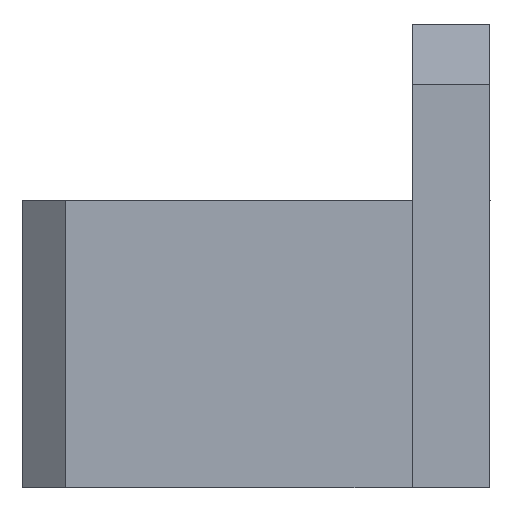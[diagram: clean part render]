
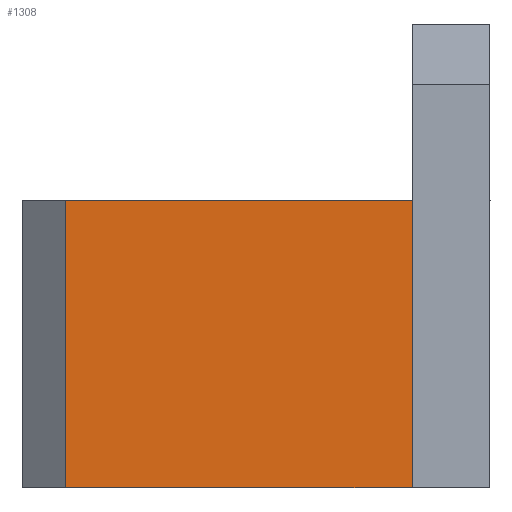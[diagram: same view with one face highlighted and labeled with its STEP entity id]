
A CAD part, left-side view. The second image highlights one B-rep face of the part: STEP entity #1308.
In plain terms, the highlighted planar face has unit normal (-1, 0, 0).
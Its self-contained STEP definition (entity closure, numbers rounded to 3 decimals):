
#370=DIRECTION('',(0.,-1.,0.));
#371=VECTOR('',#370,8.909);
#372=CARTESIAN_POINT('',(-45.776,52.608,7.374));
#373=LINE('',#372,#371);
#420=DIRECTION('',(0.,1.,0.));
#421=VECTOR('',#420,8.909);
#422=CARTESIAN_POINT('',(-45.776,43.698,
0.));
#423=LINE('',#422,#421);
#462=DIRECTION('',(0.,0.,1.));
#463=VECTOR('',#462,7.374);
#464=CARTESIAN_POINT('',(-45.776,52.608,
0.));
#465=LINE('',#464,#463);
#466=DIRECTION('',(0.,0.,1.));
#467=VECTOR('',#466,7.374);
#468=CARTESIAN_POINT('',(-45.776,43.698,
0.));
#469=LINE('',#468,#467);
#550=CARTESIAN_POINT('',(-45.776,52.608,
0.));
#551=CARTESIAN_POINT('',(-45.776,52.608,7.374));
#552=VERTEX_POINT('',#550);
#553=VERTEX_POINT('',#551);
#574=CARTESIAN_POINT('',(-45.776,43.698,
0.));
#575=VERTEX_POINT('',#574);
#590=CARTESIAN_POINT('',(-45.776,43.698,7.374));
#591=VERTEX_POINT('',#590);
#1296=CARTESIAN_POINT('',(-45.776,43.698,7.374));
#1297=DIRECTION('',(-1.,0.,0.));
#1298=DIRECTION('',(0.,1.,0.));
#1299=AXIS2_PLACEMENT_3D('',#1296,#1297,#1298);
#1300=PLANE('',#1299);
#1301=ORIENTED_EDGE('',*,*,#1168,.T.);
#1303=ORIENTED_EDGE('',*,*,#1302,.F.);
#1304=ORIENTED_EDGE('',*,*,#1231,.T.);
#1305=ORIENTED_EDGE('',*,*,#1289,.T.);
#1306=EDGE_LOOP('',(#1301,#1303,#1304,#1305));
#1307=FACE_OUTER_BOUND('',#1306,.F.);
#1168=EDGE_CURVE('',#553,#591,#373,.T.);
#1231=EDGE_CURVE('',#575,#552,#423,.T.);
#1289=EDGE_CURVE('',#552,#553,#465,.T.);
#1302=EDGE_CURVE('',#575,#591,#469,.T.);
#1308=ADVANCED_FACE('',(#1307),#1300,.T.);
